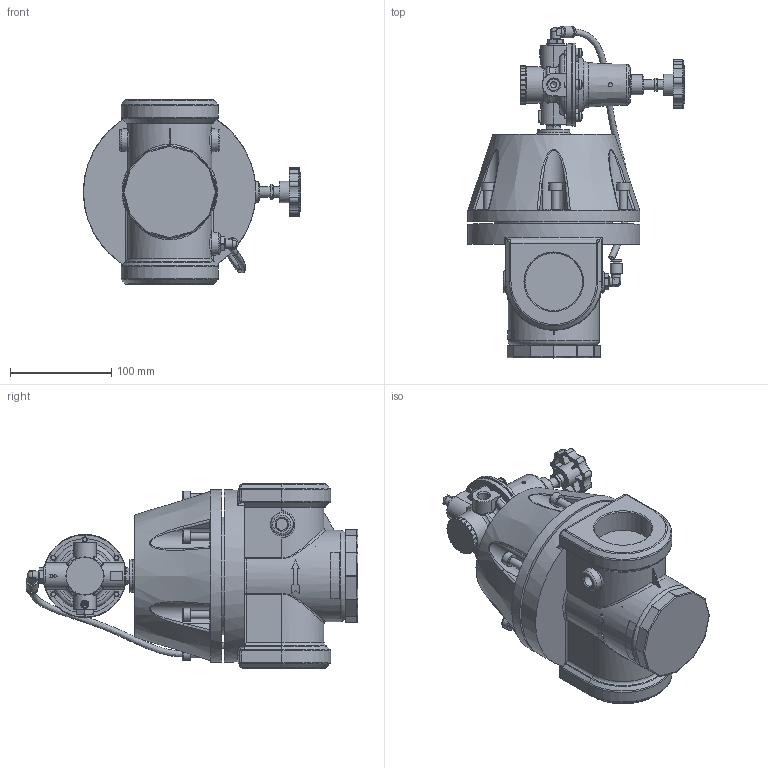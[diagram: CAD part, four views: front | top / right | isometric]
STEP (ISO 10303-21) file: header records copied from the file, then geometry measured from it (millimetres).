
FILE_DESCRIPTION(/* description */ (''),/* implementation_level */ '2;1');
FILE_NAME(/* name */ 'U:/AirCom-Produktdokumentation/Druckregler/R119/Zeichnungen/CAD-Aircom/3D/B-R119-16C-D_neutral.step',/* time_stamp */ '2022-10-20T11:47:54+02:00',/* author */ (''),/* organization */ (''),/* preprocessor_version */ 'ST-DEVELOPER v19',/* originating_system */ 'Autodesk Translation Framework v11.7.0.108',/* authorisation */ '');
FILE_SCHEMA (('AUTOMOTIVE_DESIGN { 1 0 10303 214 3 1 1 }'));
Products named in the file (27): B-R119-16x_neutral; B-R119-16J; ISO 4762 M8 x 12; ISO 4762 M8 x 25; ISO 4762 M8 x 20; doppelnippel-1-4 v2; 754.014-6 v1; B-R15-02x; P20245; P34099; P21044_1; P21044-Aux01_1; P38040_1; 0DE50309_7; 0DE50309_8; 0DE50309_9; P34098; C40004_1; P40017; P43128_1; P28080; 0DE50309_10; 0DE50309_11; 0DE50309_12; C23055_1; P23040_4; Komponente12
Assembly tree (33 placements, depth 4):
  B-R119-16x_neutral
    B-R119-16J
    ISO 4762 M8 x 25  x2
    ISO 4762 M8 x 12
    ISO 4762 M8 x 20  x6
    doppelnippel-1-4 v2
    754.014-6 v1  x2
    B-R15-02x
      P20245
      P34099
      P21044_1
        P21044-Aux01_1
        P38040_1
      0DE50309_7
      0DE50309_8
      0DE50309_9
      P34098
      C40004_1
        P40017
        P43128_1
        P28080
      0DE50309_10
      0DE50309_11
      0DE50309_12
      C23055_1
        P23040_4
    Komponente12
Bounding box: 214 x 327.3 x 182 mm (x, y, z)
Volume: 3312380.5 mm3; surface area: 288723.9 mm2
Topology: 18 solids, 21 shells, 1563 faces, 3907 edges, 2448 vertices
Faces by surface type: plane 589, cylinder 464, cone 166, torus 160, bspline 148, sphere 36
Full cylindrical faces by diameter (mm): 0.5 x1, 0.85 x12, 1 x4, 1.2 x1, 4 x1, 4.567 x6, 5 x15, 5.3 x3, 5.5 x1, 5.8 x6, 6 x5, 7 x1, 7.1 x3, 7.2 x1, 8 x11, 9 x18, 9.9 x3, 10 x2, 10.5 x2, 11 x5, 11.1 x3, 11.5 x9, 11.8 x3, 13 x9, 13.157 x3, 16 x1, 18 x3, 20 x1, 21 x1, 29 x1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
Entity records: 62261 total; most frequent: CARTESIAN_POINT 27477, DIRECTION 7158, ORIENTED_EDGE 7070, EDGE_CURVE 3535, AXIS2_PLACEMENT_3D 2934, VERTEX_POINT 2215, EDGE_LOOP 1556, CIRCLE 1524
